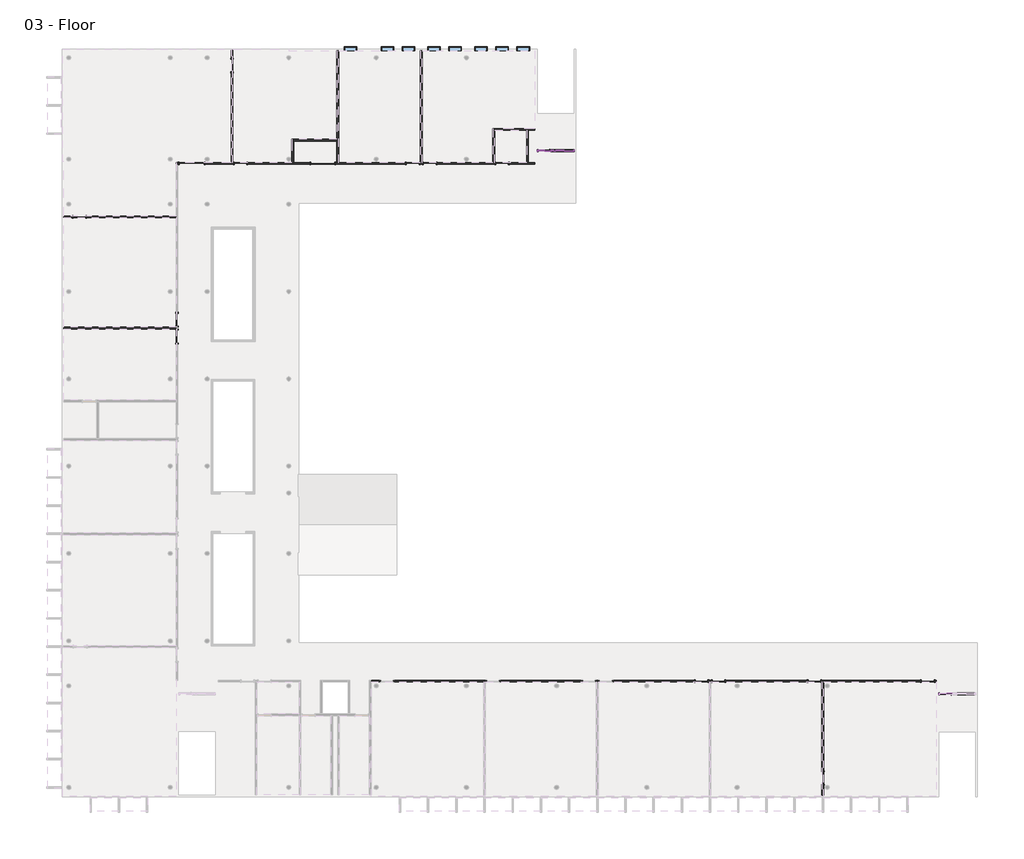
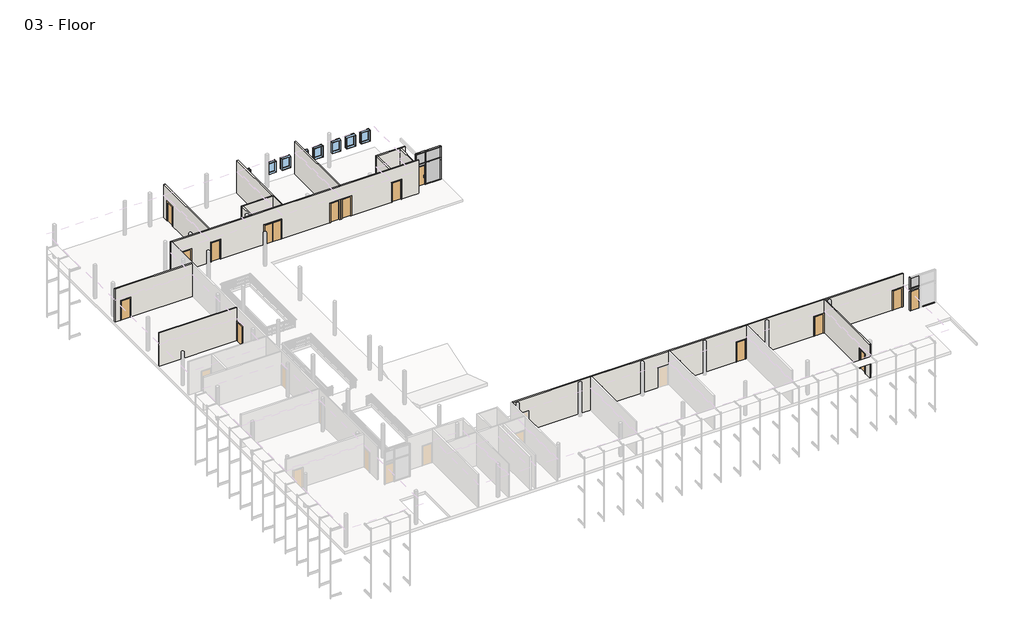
# One storey, part 2 of 4: 23 members, 17 doors, 13 walls, 8 windows, 6 plates.
"""IFC4 building model written with IfcOpenShell, lengths in millimetres."""

from ifc_helpers import new_model, si_unit, frame, origin, place, context, project, spatial, polyline, outline, extrude, faceted_brep, transform, mapped, element, save
from components import curtain_wall_sgl_glass_curtain_wall_sgl_glass_c2d4b377, curtain_wall_sgl_glass_curtain_wall_sgl_glass_ab2568d1, door_74fba8be, door_2ec079c3, door_a1797ceb, door_a3eb833a, member_2b49869a, member_75074519, member_6186cc23, member_5d67b9fc, member_a50b3cda, member_c327c56d, member_410c6227, member_73c23c35, member_bcb6a316, member_d3323a85, member_7bd2cd2c, member_6be37683, member_e7b2e991, system_panel_glazed_8dc8626f, system_panel_glazed_bb2f95a6, system_panel_glazed_2e5f6ce9, system_panel_glazed_639f3d85, system_panel_glazed_72fe8651, system_panel_glazed_1925881f, window_dfee3f32

model = new_model("IFC4")

# Units and contexts
model_context = context("Model", 3, world=origin())
ifc_project = project(units=[si_unit("LENGTHUNIT", "METRE", prefix="MILLI")], contexts=[model_context])

# Site, building, storey
site = spatial("IfcSite", under=ifc_project)
building = spatial("IfcBuilding", under=site)
storey = spatial("IfcBuildingStorey", under=building, Name="03 - Floor", Elevation=7315.2)

# Doors
placement = place(None, origin())
curtain_wall_sgl_glass_curtain_wall_sgl_glass_shape = curtain_wall_sgl_glass_curtain_wall_sgl_glass_c2d4b377(model_context)
element("IfcDoor", 1, ObjectType="Curtain Wall Sgl Glass : Curtain Wall Sgl Glass", at=placement, inside=storey, context=model_context, shape_type="MappedRepresentation", body=[
    mapped(curtain_wall_sgl_glass_curtain_wall_sgl_glass_shape, transform((34925.9207476, 46523.2, 7315.2), x_axis=(-1.0, 0.0, 0.0), y_axis=(0.0, -1.0, 0.0), z_axis=(0.0, 0.0, 1.0))),
])
curtain_wall_sgl_glass_curtain_wall_sgl_glass_2_shape = curtain_wall_sgl_glass_curtain_wall_sgl_glass_ab2568d1(model_context)
element("IfcDoor", 2, ObjectType="Curtain Wall Sgl Glass : Curtain Wall Sgl Glass", at=placement, inside=storey, context=model_context, shape_type="MappedRepresentation", body=[
    mapped(curtain_wall_sgl_glass_curtain_wall_sgl_glass_2_shape, transform((63869.2207476, 7356.4, 7315.2), x_axis=(-1.0, 0.0, 0.0), y_axis=(0.0, -1.0, 0.0), z_axis=(0.0, 0.0, 1.0))),
])
door_shape = door_74fba8be(model_context)
element("IfcDoor", 3, ObjectType="Double-Flush : 68\" x 84\"", at=placement, inside=storey, context=model_context, shape_type="MappedRepresentation", body=[
    mapped(door_shape, transform((18949.3207476, 45608.8, 7315.2), x_axis=(1.0, 0.0, 0.0), y_axis=(0.0, 1.0, 0.0), z_axis=(0.0, 0.0, 1.0))),
])
door_2_shape = door_2ec079c3(model_context)
element("IfcDoor", 4, ObjectType="Double-Flush : 72\" x 84\"", at=placement, inside=storey, context=model_context, shape_type="MappedRepresentation", body=[
    mapped(door_2_shape, transform((9487.8207476, 45608.8, 7315.2), x_axis=(1.0, 0.0, 0.0), y_axis=(0.0, 1.0, 0.0), z_axis=(0.0, 0.0, 1.0))),
])
door_3_shape = door_a1797ceb(model_context)
element("IfcDoor", 5, ObjectType="Single-Flush : 36\" x 84\"", at=placement, inside=storey, context=model_context, shape_type="MappedRepresentation", body=[
    mapped(door_3_shape, transform((25426.3207476, 45608.8, 7315.2), x_axis=(1.0, 0.0, 0.0), y_axis=(0.0, 1.0, 0.0), z_axis=(0.0, 0.0, 1.0))),
])
element("IfcDoor", 6, ObjectType="Single-Flush : 36\" x 84\"", at=placement, inside=storey, context=model_context, shape_type="MappedRepresentation", body=[
    mapped(door_3_shape, transform((1397.9207476, 41748.0, 7315.2), x_axis=(-1.0, 0.0, 0.0), y_axis=(0.0, -1.0, 0.0), z_axis=(0.0, 0.0, 1.0))),
])
element("IfcDoor", 7, ObjectType="Single-Flush : 36\" x 84\"", at=placement, inside=storey, context=model_context, shape_type="MappedRepresentation", body=[
    mapped(door_3_shape, transform((8421.0207476, 33112.0, 7315.2), x_axis=(0.0, 1.0, 0.0), y_axis=(-1.0, 0.0, 0.0), z_axis=(0.0, 0.0, 1.0))),
])
element("IfcDoor", 8, ObjectType="Single-Flush : 36\" x 84\"", at=placement, inside=storey, context=model_context, shape_type="MappedRepresentation", body=[
    mapped(door_3_shape, transform((47460.8207476, 8270.8, 7315.2), x_axis=(-1.0, 0.0, 0.0), y_axis=(0.0, -1.0, 0.0), z_axis=(0.0, 0.0, 1.0))),
])
element("IfcDoor", 9, ObjectType="Single-Flush : 36\" x 84\"", at=placement, inside=storey, context=model_context, shape_type="MappedRepresentation", body=[
    mapped(door_3_shape, transform((54979.2207476, 1273.1, 7315.2), x_axis=(0.0, -1.0, 0.0), y_axis=(1.0, 0.0, 0.0), z_axis=(0.0, 0.0, 1.0))),
])
door_4_shape = door_a3eb833a(model_context)
element("IfcDoor", 10, ObjectType="Single-Flush : 36\" x 84\"", at=placement, inside=storey, context=model_context, shape_type="MappedRepresentation", body=[
    mapped(door_4_shape, transform((31865.2207476, 45608.8, 7315.2), x_axis=(-1.0, 0.0, 0.0), y_axis=(0.0, -1.0, 0.0), z_axis=(0.0, 0.0, 1.0))),
])
element("IfcDoor", 11, ObjectType="Single-Flush : 36\" x 84\"", at=placement, inside=storey, context=model_context, shape_type="MappedRepresentation", body=[
    mapped(door_4_shape, transform((26645.5207476, 45608.8, 7315.2), x_axis=(-1.0, 0.0, 0.0), y_axis=(0.0, -1.0, 0.0), z_axis=(0.0, 0.0, 1.0))),
])
element("IfcDoor", 12, ObjectType="Single-Flush : 36\" x 84\"", at=placement, inside=storey, context=model_context, shape_type="MappedRepresentation", body=[
    mapped(door_4_shape, transform((13005.7207476, 45608.8, 7315.2), x_axis=(-1.0, 0.0, 0.0), y_axis=(0.0, -1.0, 0.0), z_axis=(0.0, 0.0, 1.0))),
])
element("IfcDoor", 13, ObjectType="Single-Flush : 36\" x 84\"", at=placement, inside=storey, context=model_context, shape_type="MappedRepresentation", body=[
    mapped(door_4_shape, transform((8421.0207476, 34331.2, 7315.2), x_axis=(0.0, -1.0, 0.0), y_axis=(1.0, 0.0, 0.0), z_axis=(0.0, 0.0, 1.0))),
])
element("IfcDoor", 14, ObjectType="Single-Flush : 36\" x 84\"", at=placement, inside=storey, context=model_context, shape_type="MappedRepresentation", body=[
    mapped(door_4_shape, transform((12396.1207476, 52657.3, 7315.2), x_axis=(0.0, 1.0, 0.0), y_axis=(-1.0, 0.0, 0.0), z_axis=(0.0, 0.0, 1.0))),
])
element("IfcDoor", 15, ObjectType="Single-Flush : 36\" x 84\"", at=placement, inside=storey, context=model_context, shape_type="MappedRepresentation", body=[
    mapped(door_4_shape, transform((46241.6207476, 8270.8, 7315.2), x_axis=(1.0, 0.0, 0.0), y_axis=(0.0, 1.0, 0.0), z_axis=(0.0, 0.0, 1.0))),
])
element("IfcDoor", 16, ObjectType="Single-Flush : 36\" x 84\"", at=placement, inside=storey, context=model_context, shape_type="MappedRepresentation", body=[
    mapped(door_4_shape, transform((54369.6207476, 8270.8, 7315.2), x_axis=(1.0, 0.0, 0.0), y_axis=(0.0, 1.0, 0.0), z_axis=(0.0, 0.0, 1.0))),
])
element("IfcDoor", 17, ObjectType="Single-Flush : 36\" x 84\"", at=placement, inside=storey, context=model_context, shape_type="MappedRepresentation", body=[
    mapped(door_4_shape, transform((62535.7207476, 8270.8, 7315.2), x_axis=(1.0, 0.0, 0.0), y_axis=(0.0, 1.0, 0.0), z_axis=(0.0, 0.0, 1.0))),
])

# Members
member_shape = member_2b49869a(model_context)
element("IfcMember", 18, ObjectType="Rectangular Mullion : 2.5\" x 5\" rectangular", at=placement, inside=storey, context=model_context, shape_type="MappedRepresentation", body=[
    mapped(member_shape, transform((35414.8707476, 46523.2, 9753.6), x_axis=(1.0, 0.0, 0.0), y_axis=(0.0, -1.0, 0.0), z_axis=(0.0, 0.0, -1.0))),
])
member_2_shape = member_75074519(model_context)
element("IfcMember", 19, ObjectType="Rectangular Mullion : 2.5\" x 5\" rectangular", at=placement, inside=storey, context=model_context, shape_type="MappedRepresentation", body=[
    mapped(member_2_shape, transform((34405.2207476, 46523.2, 10972.8), x_axis=(-1.0, 0.0, 0.0), y_axis=(0.0, -1.0, 0.0), z_axis=(0.0, 0.0, 1.0))),
])
element("IfcMember", 20, ObjectType="Rectangular Mullion : 2.5\" x 5\" rectangular", at=placement, inside=storey, context=model_context, shape_type="MappedRepresentation", body=[
    mapped(member_2_shape, transform((37046.8207476, 46523.2, 9753.6), x_axis=(1.0, 0.0, 0.0), y_axis=(0.0, -1.0, 0.0), z_axis=(0.0, 0.0, -1.0))),
])
element("IfcMember", 21, ObjectType="Rectangular Mullion : 2.5\" x 5\" rectangular", at=placement, inside=storey, context=model_context, shape_type="MappedRepresentation", body=[
    mapped(member_2_shape, transform((63348.5207476, 7356.4, 10972.8), x_axis=(-1.0, 0.0, 0.0), y_axis=(0.0, -1.0, 0.0), z_axis=(0.0, 0.0, 1.0))),
])
member_3_shape = member_6186cc23(model_context)
element("IfcMember", 22, ObjectType="Rectangular Mullion : 2.5\" x 5\" rectangular", at=placement, inside=storey, context=model_context, shape_type="MappedRepresentation", body=[
    mapped(member_3_shape, transform((35414.8707476, 46523.2, 7315.2), x_axis=(1.0, 0.0, 0.0), y_axis=(0.0, -1.0, 0.0), z_axis=(0.0, 0.0, -1.0))),
])
member_4_shape = member_5d67b9fc(model_context)
element("IfcMember", 23, ObjectType="Rectangular Mullion : 2.5\" x 5\" rectangular", at=placement, inside=storey, context=model_context, shape_type="MappedRepresentation", body=[
    mapped(member_4_shape, transform((35414.8707476, 46523.2, 9480.55), x_axis=(1.0, 0.0, 0.0), y_axis=(0.0, -1.0, 0.0), z_axis=(0.0, 0.0, -1.0))),
])
member_5_shape = member_a50b3cda(model_context)
element("IfcMember", 24, ObjectType="Rectangular Mullion : 2.5\" x 5\" rectangular", at=placement, inside=storey, context=model_context, shape_type="MappedRepresentation", body=[
    mapped(member_5_shape, transform((37046.8207476, 46523.2, 7315.2), x_axis=(1.0, 0.0, 0.0), y_axis=(0.0, -1.0, 0.0), z_axis=(0.0, 0.0, -1.0))),
])
member_6_shape = member_c327c56d(model_context)
element("IfcMember", 25, ObjectType="Rectangular Mullion : 2.5\" x 5\" rectangular", at=placement, inside=storey, context=model_context, shape_type="MappedRepresentation", body=[
    mapped(member_6_shape, transform((37046.8207476, 46523.2, 9480.55), x_axis=(1.0, 0.0, 0.0), y_axis=(0.0, -1.0, 0.0), z_axis=(0.0, 0.0, -1.0))),
])
member_7_shape = member_410c6227(model_context)
element("IfcMember", 26, ObjectType="Rectangular Mullion : 2.5\" x 5\" rectangular", at=placement, inside=storey, context=model_context, shape_type="MappedRepresentation", body=[
    mapped(member_7_shape, transform((35383.1207476, 46523.2, 9753.6), x_axis=(0.0, 0.0, 1.0), y_axis=(0.0, -1.0, 0.0), z_axis=(1.0, 0.0, 0.0))),
])
element("IfcMember", 27, ObjectType="Rectangular Mullion : 2.5\" x 5\" rectangular", at=placement, inside=storey, context=model_context, shape_type="MappedRepresentation", body=[
    mapped(member_7_shape, transform((35383.1207476, 46523.2, 9480.55), x_axis=(0.0, 0.0, 1.0), y_axis=(0.0, -1.0, 0.0), z_axis=(1.0, 0.0, 0.0))),
])
member_8_shape = member_73c23c35(model_context)
element("IfcMember", 28, ObjectType="Rectangular Mullion : 2.5\" x 5\" rectangular", at=placement, inside=storey, context=model_context, shape_type="MappedRepresentation", body=[
    mapped(member_8_shape, transform((35383.1207476, 46523.2, 10972.8), x_axis=(0.0, 0.0, 1.0), y_axis=(0.0, -1.0, 0.0), z_axis=(1.0, 0.0, 0.0))),
])
element("IfcMember", 29, ObjectType="Rectangular Mullion : 2.5\" x 5\" rectangular", at=placement, inside=storey, context=model_context, shape_type="MappedRepresentation", body=[
    mapped(member_6_shape, transform((34405.2207476, 46523.2, 9753.6), x_axis=(-1.0, 0.0, 0.0), y_axis=(0.0, -1.0, 0.0), z_axis=(0.0, 0.0, 1.0))),
])
element("IfcMember", 30, ObjectType="Rectangular Mullion : 2.5\" x 5\" rectangular", at=placement, inside=storey, context=model_context, shape_type="MappedRepresentation", body=[
    mapped(member_5_shape, transform((34405.2207476, 46523.2, 9480.55), x_axis=(-1.0, 0.0, 0.0), y_axis=(0.0, -1.0, 0.0), z_axis=(0.0, 0.0, 1.0))),
])
member_9_shape = member_bcb6a316(model_context)
element("IfcMember", 31, ObjectType="Rectangular Mullion : 2.5\" x 5\" rectangular", at=placement, inside=storey, context=model_context, shape_type="MappedRepresentation", body=[
    mapped(member_9_shape, transform((35726.0207476, 46523.2, 7315.2), x_axis=(0.0, 0.0, -1.0), y_axis=(0.0, -1.0, 0.0), z_axis=(-1.0, 0.0, 0.0))),
])
member_10_shape = member_d3323a85(model_context)
element("IfcMember", 32, ObjectType="Rectangular Mullion : 2.5\" x 5\" rectangular", at=placement, inside=storey, context=model_context, shape_type="MappedRepresentation", body=[
    mapped(member_10_shape, transform((35446.6207476, 46523.2, 7315.2), x_axis=(0.0, 0.0, -1.0), y_axis=(0.0, -1.0, 0.0), z_axis=(-1.0, 0.0, 0.0))),
])
element("IfcMember", 33, ObjectType="Rectangular Mullion : 2.5\" x 5\" rectangular", at=placement, inside=storey, context=model_context, shape_type="MappedRepresentation", body=[
    mapped(member_9_shape, transform((36983.3207476, 46523.2, 10972.8), x_axis=(0.0, 0.0, 1.0), y_axis=(0.0, -1.0, 0.0), z_axis=(1.0, 0.0, 0.0))),
])
element("IfcMember", 34, ObjectType="Rectangular Mullion : 2.5\" x 5\" rectangular", at=placement, inside=storey, context=model_context, shape_type="MappedRepresentation", body=[
    mapped(member_10_shape, transform((35726.0207476, 46523.2, 10972.8), x_axis=(0.0, 0.0, 1.0), y_axis=(0.0, -1.0, 0.0), z_axis=(1.0, 0.0, 0.0))),
])
member_11_shape = member_7bd2cd2c(model_context)
element("IfcMember", 35, ObjectType="Rectangular Mullion : 2.5\" x 5\" rectangular", at=placement, inside=storey, context=model_context, shape_type="MappedRepresentation", body=[
    mapped(member_11_shape, transform((36983.3207476, 46523.2, 9753.6), x_axis=(0.0, 0.0, 1.0), y_axis=(0.0, -1.0, 0.0), z_axis=(1.0, 0.0, 0.0))),
])
member_12_shape = member_6be37683(model_context)
element("IfcMember", 36, ObjectType="Rectangular Mullion : 2.5\" x 5\" rectangular", at=placement, inside=storey, context=model_context, shape_type="MappedRepresentation", body=[
    mapped(member_12_shape, transform((35726.0207476, 46523.2, 9753.6), x_axis=(0.0, 0.0, 1.0), y_axis=(0.0, -1.0, 0.0), z_axis=(1.0, 0.0, 0.0))),
])
element("IfcMember", 37, ObjectType="Rectangular Mullion : 2.5\" x 5\" rectangular", at=placement, inside=storey, context=model_context, shape_type="MappedRepresentation", body=[
    mapped(member_7_shape, transform((64326.4207476, 7356.4, 9753.6), x_axis=(0.0, 0.0, 1.0), y_axis=(0.0, -1.0, 0.0), z_axis=(1.0, 0.0, 0.0))),
])
element("IfcMember", 38, ObjectType="Rectangular Mullion : 2.5\" x 5\" rectangular", at=placement, inside=storey, context=model_context, shape_type="MappedRepresentation", body=[
    mapped(member_6_shape, transform((63348.5207476, 7356.4, 9753.6), x_axis=(-1.0, 0.0, 0.0), y_axis=(0.0, -1.0, 0.0), z_axis=(0.0, 0.0, 1.0))),
])
element("IfcMember", 39, ObjectType="Rectangular Mullion : 2.5\" x 5\" rectangular", at=placement, inside=storey, context=model_context, shape_type="MappedRepresentation", body=[
    mapped(member_5_shape, transform((63348.5207476, 7356.4, 9480.55), x_axis=(-1.0, 0.0, 0.0), y_axis=(0.0, -1.0, 0.0), z_axis=(0.0, 0.0, 1.0))),
])
member_13_shape = member_e7b2e991(model_context)
element("IfcMember", 40, ObjectType="Rectangular Mullion : 2.5\" x 5\" rectangular", at=placement, inside=storey, context=model_context, shape_type="MappedRepresentation", body=[
    mapped(member_13_shape, transform((64675.6707476, 7356.4, 7315.2), x_axis=(0.0, 0.0, -1.0), y_axis=(0.0, -1.0, 0.0), z_axis=(-1.0, 0.0, 0.0))),
])

# Plates
system_panel_glazed_shape = system_panel_glazed_8dc8626f(model_context)
element("IfcPlate", 41, ObjectType="System Panel : Glazed", at=placement, inside=storey, context=model_context, shape_type="MappedRepresentation", body=[
    mapped(system_panel_glazed_shape, transform((34925.9207476, 46523.2, 9512.3), x_axis=(1.0, 0.0, 0.0), y_axis=(0.0, 1.0, 0.0), z_axis=(0.0, 0.0, 1.0))),
])
system_panel_glazed_2_shape = system_panel_glazed_bb2f95a6(model_context)
element("IfcPlate", 42, ObjectType="System Panel : Glazed", at=placement, inside=storey, context=model_context, shape_type="MappedRepresentation", body=[
    mapped(system_panel_glazed_2_shape, transform((36214.9707476, 46523.2, 7378.7), x_axis=(1.0, 0.0, 0.0), y_axis=(0.0, 1.0, 0.0), z_axis=(0.0, 0.0, 1.0))),
])
system_panel_glazed_3_shape = system_panel_glazed_2e5f6ce9(model_context)
element("IfcPlate", 43, ObjectType="System Panel : Glazed", at=placement, inside=storey, context=model_context, shape_type="MappedRepresentation", body=[
    mapped(system_panel_glazed_3_shape, transform((34925.9207476, 46523.2, 9785.35), x_axis=(1.0, 0.0, 0.0), y_axis=(0.0, 1.0, 0.0), z_axis=(0.0, 0.0, 1.0))),
])
system_panel_glazed_4_shape = system_panel_glazed_639f3d85(model_context)
element("IfcPlate", 44, ObjectType="System Panel : Glazed", at=placement, inside=storey, context=model_context, shape_type="MappedRepresentation", body=[
    mapped(system_panel_glazed_4_shape, transform((36214.9707476, 46523.2, 9785.35), x_axis=(1.0, 0.0, 0.0), y_axis=(0.0, 1.0, 0.0), z_axis=(0.0, 0.0, 1.0))),
])
system_panel_glazed_5_shape = system_panel_glazed_72fe8651(model_context)
element("IfcPlate", 45, ObjectType="System Panel : Glazed", at=placement, inside=storey, context=model_context, shape_type="MappedRepresentation", body=[
    mapped(system_panel_glazed_5_shape, transform((63869.2207476, 7356.4, 9512.3), x_axis=(1.0, 0.0, 0.0), y_axis=(0.0, 1.0, 0.0), z_axis=(0.0, 0.0, 1.0))),
])
system_panel_glazed_6_shape = system_panel_glazed_1925881f(model_context)
element("IfcPlate", 46, ObjectType="System Panel : Glazed", at=placement, inside=storey, context=model_context, shape_type="MappedRepresentation", body=[
    mapped(system_panel_glazed_6_shape, transform((63869.2207476, 7356.4, 9785.35), x_axis=(1.0, 0.0, 0.0), y_axis=(0.0, 1.0, 0.0), z_axis=(0.0, 0.0, 1.0))),
])

# Walls
element("IfcWall", 47, ObjectType="Generic - 5\"", at=placement, inside=storey, context=model_context, shape_type="Brep", body=[
    faceted_brep([(8357.5207476, 45672.3, 7315.2), (8357.5207476, 45672.3, 10972.8), (12332.6207476, 45672.3, 10972.8), (12459.6207476, 45672.3, 10972.8), (16714.1207476, 45672.3, 10972.8), (16841.1207476, 45672.3, 10972.8), (19952.6207476, 45672.3, 10972.8), (20079.6207476, 45672.3, 10972.8), (25972.4207476, 45672.3, 10972.8), (26099.4207476, 45672.3, 10972.8), (31192.1207476, 45672.3, 10972.8), (31319.1207476, 45672.3, 10972.8), (33630.5207476, 45672.3, 10972.8), (33757.5207476, 45672.3, 10972.8), (34202.0207476, 45672.3, 10972.8), (34202.0207476, 45672.3, 7315.2), (33757.5207476, 45672.3, 7315.2), (33630.5207476, 45672.3, 7315.2), (32322.4207476, 45672.3, 7315.2), (32322.4207476, 45672.3, 9448.8), (31408.0207476, 45672.3, 9448.8), (31408.0207476, 45672.3, 7315.2), (31319.1207476, 45672.3, 7315.2), (31192.1207476, 45672.3, 7315.2), (27102.7207476, 45672.3, 7315.2), (27102.7207476, 45672.3, 9448.8), (26188.3207476, 45672.3, 9448.8), (26188.3207476, 45672.3, 7315.2), (26099.4207476, 45672.3, 7315.2), (25972.4207476, 45672.3, 7315.2), (25883.5207476, 45672.3, 7315.2), (25883.5207476, 45672.3, 9448.8), (24969.1207476, 45672.3, 9448.8), (24969.1207476, 45672.3, 7315.2), (20079.6207476, 45672.3, 7315.2), (19952.6207476, 45672.3, 7315.2), (19812.9207476, 45672.3, 7315.2), (19812.9207476, 45672.3, 9448.8), (18085.7207476, 45672.3, 9448.8), (18085.7207476, 45672.3, 7315.2), (16841.1207476, 45672.3, 7315.2), (16714.1207476, 45672.3, 7315.2), (13462.9207476, 45672.3, 7315.2), (13462.9207476, 45672.3, 9448.8), (12548.5207476, 45672.3, 9448.8), (12548.5207476, 45672.3, 7315.2), (12459.6207476, 45672.3, 7315.2), (12332.6207476, 45672.3, 7315.2), (10402.2207476, 45672.3, 7315.2), (10402.2207476, 45672.3, 9448.8), (8573.4207476, 45672.3, 9448.8), (8573.4207476, 45672.3, 7315.2), (34202.0207476, 45545.3, 7315.2), (34202.0207476, 45545.3, 10972.8), (8484.5207476, 45545.3, 10972.8), (8357.5207476, 45545.3, 10972.8), (8357.5207476, 45545.3, 7315.2), (8484.5207476, 45545.3, 7315.2), (8573.4207476, 45545.3, 7315.2), (8573.4207476, 45545.3, 9448.8), (10402.2207476, 45545.3, 9448.8), (10402.2207476, 45545.3, 7315.2), (12548.5207476, 45545.3, 7315.2), (12548.5207476, 45545.3, 9448.8), (13462.9207476, 45545.3, 9448.8), (13462.9207476, 45545.3, 7315.2), (18085.7207476, 45545.3, 7315.2), (18085.7207476, 45545.3, 9448.8), (19812.9207476, 45545.3, 9448.8), (19812.9207476, 45545.3, 7315.2), (24969.1207476, 45545.3, 7315.2), (24969.1207476, 45545.3, 9448.8), (25883.5207476, 45545.3, 9448.8), (25883.5207476, 45545.3, 7315.2), (26188.3207476, 45545.3, 7315.2), (26188.3207476, 45545.3, 9448.8), (27102.7207476, 45545.3, 9448.8), (27102.7207476, 45545.3, 7315.2), (31408.0207476, 45545.3, 7315.2), (31408.0207476, 45545.3, 9448.8), (32322.4207476, 45545.3, 9448.8), (32322.4207476, 45545.3, 7315.2)], [[[0, 1, 2, 3, 4, 5, 6, 7, 8, 9, 10, 11, 12, 13, 14, 15, 16, 17, 18, 19, 20, 21, 22, 23, 24, 25, 26, 27, 28, 29, 30, 31, 32, 33, 34, 35, 36, 37, 38, 39, 40, 41, 42, 43, 44, 45, 46, 47, 48, 49, 50, 51]], [[52, 53, 54, 55, 56, 57, 58, 59, 60, 61, 62, 63, 64, 65, 66, 67, 68, 69, 70, 71, 72, 73, 74, 75, 76, 77, 78, 79, 80, 81]], [[15, 52, 81, 18, 17, 16]], [[56, 0, 51, 58, 57]], [[21, 78, 77, 24, 23, 22]], [[27, 74, 73, 30, 29, 28]], [[33, 70, 69, 36, 35, 34]], [[45, 62, 61, 48, 47, 46]], [[65, 42, 41, 40, 39, 66]], [[14, 13, 12, 11, 10, 9, 8, 7, 6, 5, 4, 3, 2, 1, 55, 54, 53]], [[1, 0, 56, 55]], [[15, 14, 53, 52]], [[79, 78, 21, 20]], [[80, 79, 20, 19]], [[81, 80, 19, 18]], [[75, 74, 27, 26]], [[76, 75, 26, 25]], [[77, 76, 25, 24]], [[31, 30, 73, 72]], [[32, 31, 72, 71]], [[33, 32, 71, 70]], [[63, 62, 45, 44]], [[64, 63, 44, 43]], [[65, 64, 43, 42]], [[68, 37, 36, 69]], [[37, 68, 67, 38]], [[38, 67, 66, 39]], [[60, 49, 48, 61]], [[49, 60, 59, 50]], [[50, 59, 58, 51]]]),
])
element("IfcWall", 48, ObjectType="Generic - 5\"", at=placement, inside=storey, context=model_context, shape_type="Brep", body=[
    faceted_brep([(62992.9207476, 8207.3, 9448.8), (62992.9207476, 8207.3, 7315.2), (63145.3207476, 8207.3, 7315.2), (63145.3207476, 8207.3, 10972.8), (55042.7207476, 8207.3, 10972.8), (54915.7207476, 8207.3, 10972.8), (46914.7207476, 8207.3, 10972.8), (46787.7207476, 8207.3, 10972.8), (38786.7207476, 8207.3, 10972.8), (38659.7207476, 8207.3, 10972.8), (30658.7207476, 8207.3, 10972.8), (30531.7207476, 8207.3, 10972.8), (22429.1207476, 8207.3, 10972.8), (22429.1207476, 8207.3, 7315.2), (23114.9207476, 8207.3, 7315.2), (23114.9207476, 8207.3, 9448.8), (24029.3207476, 8207.3, 9448.8), (24029.3207476, 8207.3, 7315.2), (30531.7207476, 8207.3, 7315.2), (30658.7207476, 8207.3, 7315.2), (30747.6207476, 8207.3, 7315.2), (30747.6207476, 8207.3, 9448.8), (31662.0207476, 8207.3, 9448.8), (31662.0207476, 8207.3, 7315.2), (37656.4207476, 8207.3, 7315.2), (37656.4207476, 8207.3, 9448.8), (38570.8207476, 8207.3, 9448.8), (38570.8207476, 8207.3, 7315.2), (38659.7207476, 8207.3, 7315.2), (38786.7207476, 8207.3, 7315.2), (38875.6207476, 8207.3, 7315.2), (38875.6207476, 8207.3, 9448.8), (39790.0207476, 8207.3, 9448.8), (39790.0207476, 8207.3, 7315.2), (45784.4207476, 8207.3, 7315.2), (45784.4207476, 8207.3, 9448.8), (46698.8207476, 8207.3, 9448.8), (46698.8207476, 8207.3, 7315.2), (46787.7207476, 8207.3, 7315.2), (46914.7207476, 8207.3, 7315.2), (47003.6207476, 8207.3, 7315.2), (47003.6207476, 8207.3, 9448.8), (47918.0207476, 8207.3, 9448.8), (47918.0207476, 8207.3, 7315.2), (53912.4207476, 8207.3, 7315.2), (53912.4207476, 8207.3, 9448.8), (54826.8207476, 8207.3, 9448.8), (54826.8207476, 8207.3, 7315.2), (54915.7207476, 8207.3, 7315.2), (55042.7207476, 8207.3, 7315.2), (62078.5207476, 8207.3, 7315.2), (62078.5207476, 8207.3, 9448.8), (63145.3207476, 8334.3, 7315.2), (62992.9207476, 8334.3, 7315.2), (62992.9207476, 8334.3, 9448.8), (62078.5207476, 8334.3, 9448.8), (62078.5207476, 8334.3, 7315.2), (54826.8207476, 8334.3, 7315.2), (54826.8207476, 8334.3, 9448.8), (53912.4207476, 8334.3, 9448.8), (53912.4207476, 8334.3, 7315.2), (47918.0207476, 8334.3, 7315.2), (47918.0207476, 8334.3, 9448.8), (47003.6207476, 8334.3, 9448.8), (47003.6207476, 8334.3, 7315.2), (46698.8207476, 8334.3, 7315.2), (46698.8207476, 8334.3, 9448.8), (45784.4207476, 8334.3, 9448.8), (45784.4207476, 8334.3, 7315.2), (39790.0207476, 8334.3, 7315.2), (39790.0207476, 8334.3, 9448.8), (38875.6207476, 8334.3, 9448.8), (38875.6207476, 8334.3, 7315.2), (38570.8207476, 8334.3, 7315.2), (38570.8207476, 8334.3, 9448.8), (37656.4207476, 8334.3, 9448.8), (37656.4207476, 8334.3, 7315.2), (31662.0207476, 8334.3, 7315.2), (31662.0207476, 8334.3, 9448.8), (30747.6207476, 8334.3, 9448.8), (30747.6207476, 8334.3, 7315.2), (24029.3207476, 8334.3, 7315.2), (24029.3207476, 8334.3, 9448.8), (23114.9207476, 8334.3, 9448.8), (23114.9207476, 8334.3, 7315.2), (22429.1207476, 8334.3, 7315.2), (22429.1207476, 8334.3, 10972.8), (63145.3207476, 8334.3, 10972.8)], [[[0, 1, 2, 3, 4, 5, 6, 7, 8, 9, 10, 11, 12, 13, 14, 15, 16, 17, 18, 19, 20, 21, 22, 23, 24, 25, 26, 27, 28, 29, 30, 31, 32, 33, 34, 35, 36, 37, 38, 39, 40, 41, 42, 43, 44, 45, 46, 47, 48, 49, 50, 51]], [[52, 53, 54, 55, 56, 57, 58, 59, 60, 61, 62, 63, 64, 65, 66, 67, 68, 69, 70, 71, 72, 73, 74, 75, 76, 77, 78, 79, 80, 81, 82, 83, 84, 85, 86, 87]], [[85, 84, 14, 13]], [[73, 72, 30, 29, 28, 27]], [[81, 80, 20, 19, 18, 17]], [[77, 76, 24, 23]], [[65, 64, 40, 39, 38, 37]], [[34, 33, 69, 68]], [[2, 1, 53, 52]], [[44, 43, 61, 60]], [[50, 49, 48, 47, 57, 56]], [[12, 11, 10, 9, 8, 7, 6, 5, 4, 3, 87, 86]], [[3, 2, 52, 87]], [[13, 12, 86, 85]], [[15, 14, 84, 83]], [[16, 15, 83, 82]], [[17, 16, 82, 81]], [[74, 73, 27, 26]], [[75, 74, 26, 25]], [[76, 75, 25, 24]], [[21, 20, 80, 79]], [[22, 21, 79, 78]], [[23, 22, 78, 77]], [[31, 30, 72, 71]], [[32, 31, 71, 70]], [[33, 32, 70, 69]], [[66, 65, 37, 36]], [[67, 66, 36, 35]], [[68, 67, 35, 34]], [[41, 40, 64, 63]], [[42, 41, 63, 62]], [[43, 42, 62, 61]], [[58, 57, 47, 46]], [[59, 58, 46, 45]], [[60, 59, 45, 44]], [[54, 53, 1, 0]], [[55, 54, 0, 51]], [[56, 55, 51, 50]]]),
])
element("IfcWall", 49, ObjectType="Generic - 5\"", at=placement, inside=storey, context=model_context, shape_type="SweptSolid", body=[
    extrude(outline(polyline([(7315.2, 280.3207476), (7315.2, 940.7207476), (9448.8, 940.7207476), (9448.8, 1855.1207476), (7315.2, 1855.1207476), (7315.2, 8357.5207476), (10972.8, 8357.5207476), (10972.8, 280.3207476), (7315.2, 280.3207476)])), frame((0.0, 41684.5, 0.0), z_axis=(0.0, 1.0, 0.0), x_axis=(0.0, 0.0, 1.0)), (0.0, 0.0, 1.0), 127.0),
])
element("IfcWall", 50, ObjectType="Generic - 5\"", at=placement, inside=storey, context=model_context, shape_type="SweptSolid", body=[
    extrude(outline(polyline([(8357.5207476, 33658.1), (280.3207476, 33658.1), (280.3207476, 33785.1), (8357.5207476, 33785.1), (8357.5207476, 33658.1)])), frame((0.0, 0.0, 7315.2), z_axis=(0.0, 0.0, 1.0), x_axis=(1.0, 0.0, 0.0)), (0.0, 0.0, 1.0), 3657.6),
])
element("IfcWall", 51, ObjectType="Generic - 5\"", at=placement, inside=storey, context=model_context, shape_type="SweptSolid", body=[
    extrude(outline(polyline([(25972.4207476, 45672.3), (25972.4207476, 53724.1), (26099.4207476, 53724.1), (26099.4207476, 45672.3), (25972.4207476, 45672.3)])), frame((0.0, 0.0, 7315.2), z_axis=(0.0, 0.0, 1.0), x_axis=(1.0, 0.0, 0.0)), (0.0, 0.0, 1.0), 3657.6),
])
element("IfcWall", 52, ObjectType="Generic - 5\"", at=placement, inside=storey, context=model_context, shape_type="Brep", body=[
    faceted_brep([(19952.6207476, 53724.1, 7315.2), (19952.6207476, 47344.7000002, 7315.2), (19952.6207476, 47217.7000002, 7315.2), (19952.6207476, 45672.3, 7315.2), (19952.6207476, 45672.3, 10972.8), (19952.6207476, 47217.7000002, 10972.8), (19952.6207476, 47344.7000002, 10972.8), (19952.6207476, 53724.1, 10972.8), (20079.6207476, 53724.1, 7315.2), (20079.6207476, 53724.1, 10972.8), (20079.6207476, 45672.3, 10972.8), (20079.6207476, 45672.3, 7315.2)], [[[0, 1, 2, 3, 4, 5, 6, 7]], [[8, 9, 10, 11]], [[3, 2, 1, 0, 8, 11]], [[0, 7, 9, 8]], [[4, 3, 11, 10]], [[7, 6, 5, 4, 10, 9]]]),
])
element("IfcWall", 53, ObjectType="Generic - 5\"", at=placement, inside=storey, context=model_context, shape_type="SweptSolid", body=[
    extrude(outline(polyline([(53762.2, 7315.2), (53114.5, 7315.2), (53114.5, 9448.8), (52200.1, 9448.8), (52200.1, 7315.2), (45672.3, 7315.2), (45672.3, 10972.8), (53724.1, 10972.8), (53762.2, 10972.8), (53762.2, 7315.2)])), frame((12332.6207476, 0.0, 0.0), z_axis=(1.0, 0.0, 0.0), x_axis=(0.0, 1.0, 0.0)), (0.0, 0.0, 1.0), 127.0),
])
element("IfcWall", 54, ObjectType="Generic - 5\"", at=placement, inside=storey, context=model_context, shape_type="SweptSolid", body=[
    extrude(outline(polyline([(815.9, 9448.8), (815.9, 7315.2), (15.8, 7315.2), (15.8, 10972.8), (53.9, 10972.8), (8207.3, 10972.8), (8207.3, 7315.2), (1730.3, 7315.2), (1730.3, 9448.8), (815.9, 9448.8)])), frame((54915.7207476, 0.0, 0.0), z_axis=(1.0, 0.0, 0.0), x_axis=(0.0, 1.0, 0.0)), (0.0, 0.0, 1.0), 127.0),
])
element("IfcWall", 55, ObjectType="Generic - 5\"", at=placement, inside=storey, context=model_context, shape_type="Brep", body=[
    faceted_brep([(19952.6207476, 47344.7000002, 7315.2), (16714.1207476, 47344.7000002, 7315.2), (16714.1207476, 47344.7000002, 10972.8), (19952.6207476, 47344.7000002, 10972.8), (19952.6207476, 47217.7000002, 7315.2), (19952.6207476, 47217.7000002, 10972.8), (16841.1207476, 47217.7000002, 10972.8), (16714.1207476, 47217.7000002, 10972.8), (16714.1207476, 47217.7000002, 7315.2), (16841.1207476, 47217.7000002, 7315.2)], [[[0, 1, 2, 3]], [[4, 5, 6, 7, 8, 9]], [[1, 0, 4, 9, 8]], [[3, 2, 7, 6, 5]], [[2, 1, 8, 7]], [[0, 3, 5, 4]]]),
])
element("IfcWall", 56, ObjectType="Generic - 5\"", at=placement, inside=storey, context=model_context, shape_type="SweptSolid", body=[
    extrude(outline(polyline([(16714.1207476, 45672.3), (16714.1207476, 47217.7000002), (16841.1207476, 47217.7000002), (16841.1207476, 45672.3), (16714.1207476, 45672.3)])), frame((0.0, 0.0, 7315.2), z_axis=(0.0, 0.0, 1.0), x_axis=(1.0, 0.0, 0.0)), (0.0, 0.0, 1.0), 3657.6),
])
element("IfcWall", 57, ObjectType="Generic - 5\"", at=placement, inside=storey, context=model_context, shape_type="Brep", body=[
    faceted_brep([(34202.0207476, 48110.7, 7315.2), (31192.1207476, 48110.7, 7315.2), (31192.1207476, 48110.7, 10972.8), (34202.0207476, 48110.7, 10972.8), (34202.0207476, 47983.7, 7315.2), (34202.0207476, 47983.7, 10972.8), (33757.5207476, 47983.7, 10972.8), (33630.5207476, 47983.7, 10972.8), (31319.1207476, 47983.7, 10972.8), (31192.1207476, 47983.7, 10972.8), (31192.1207476, 47983.7, 7315.2), (31319.1207476, 47983.7, 7315.2), (33630.5207476, 47983.7, 7315.2), (33757.5207476, 47983.7, 7315.2)], [[[0, 1, 2, 3]], [[4, 5, 6, 7, 8, 9, 10, 11, 12, 13]], [[1, 0, 4, 13, 12, 11, 10]], [[3, 2, 9, 8, 7, 6, 5]], [[2, 1, 10, 9]], [[0, 3, 5, 4]]]),
])
element("IfcWall", 58, ObjectType="Generic - 5\"", at=placement, inside=storey, context=model_context, shape_type="SweptSolid", body=[
    extrude(outline(polyline([(31192.1207476, 45672.3), (31192.1207476, 47983.7), (31319.1207476, 47983.7), (31319.1207476, 45672.3), (31192.1207476, 45672.3)])), frame((0.0, 0.0, 7315.2), z_axis=(0.0, 0.0, 1.0), x_axis=(1.0, 0.0, 0.0)), (0.0, 0.0, 1.0), 3657.6),
])
element("IfcWall", 59, ObjectType="Generic - 5\"", at=placement, inside=storey, context=model_context, shape_type="SweptSolid", body=[
    extrude(outline(polyline([(33630.5207476, 45672.3), (33630.5207476, 47983.7), (33757.5207476, 47983.7), (33757.5207476, 45672.3), (33630.5207476, 45672.3)])), frame((0.0, 0.0, 7315.2), z_axis=(0.0, 0.0, 1.0), x_axis=(1.0, 0.0, 0.0)), (0.0, 0.0, 1.0), 3657.6),
])

# Windows
window_shape = window_dfee3f32(model_context)
element("IfcWindow", 60, ObjectType="Fixed : 36\" x 48\"", at=placement, inside=storey, context=model_context, shape_type="MappedRepresentation", body=[
    mapped(window_shape, transform((20968.6207476, 53878.0875, 7315.2), x_axis=(1.0, 0.0, 0.0), y_axis=(0.0, 1.0, 0.0), z_axis=(0.0, 0.0, 1.0))),
])
element("IfcWindow", 61, ObjectType="Fixed : 36\" x 48\"", at=placement, inside=storey, context=model_context, shape_type="MappedRepresentation", body=[
    mapped(window_shape, transform((25159.6207476, 53878.0875, 7315.2), x_axis=(1.0, 0.0, 0.0), y_axis=(0.0, 1.0, 0.0), z_axis=(0.0, 0.0, 1.0))),
])
element("IfcWindow", 62, ObjectType="Fixed : 36\" x 48\"", at=placement, inside=storey, context=model_context, shape_type="MappedRepresentation", body=[
    mapped(window_shape, transform((23635.6207476, 53878.0875, 7315.2), x_axis=(1.0, 0.0, 0.0), y_axis=(0.0, 1.0, 0.0), z_axis=(0.0, 0.0, 1.0))),
])
element("IfcWindow", 63, ObjectType="Fixed : 36\" x 48\"", at=placement, inside=storey, context=model_context, shape_type="MappedRepresentation", body=[
    mapped(window_shape, transform((26988.4207476, 53878.0875, 7315.2), x_axis=(1.0, 0.0, 0.0), y_axis=(0.0, 1.0, 0.0), z_axis=(0.0, 0.0, 1.0))),
])
element("IfcWindow", 64, ObjectType="Fixed : 36\" x 48\"", at=placement, inside=storey, context=model_context, shape_type="MappedRepresentation", body=[
    mapped(window_shape, transform((28512.4207476, 53878.0875, 7315.2), x_axis=(1.0, 0.0, 0.0), y_axis=(0.0, 1.0, 0.0), z_axis=(0.0, 0.0, 1.0))),
])
element("IfcWindow", 65, ObjectType="Fixed : 36\" x 48\"", at=placement, inside=storey, context=model_context, shape_type="MappedRepresentation", body=[
    mapped(window_shape, transform((33427.3207476, 53878.0875, 7315.2), x_axis=(1.0, 0.0, 0.0), y_axis=(0.0, 1.0, 0.0), z_axis=(0.0, 0.0, 1.0))),
])
element("IfcWindow", 66, ObjectType="Fixed : 36\" x 48\"", at=placement, inside=storey, context=model_context, shape_type="MappedRepresentation", body=[
    mapped(window_shape, transform((31903.3207476, 53878.0875, 7315.2), x_axis=(1.0, 0.0, 0.0), y_axis=(0.0, 1.0, 0.0), z_axis=(0.0, 0.0, 1.0))),
])
element("IfcWindow", 67, ObjectType="Fixed : 36\" x 48\"", at=placement, inside=storey, context=model_context, shape_type="MappedRepresentation", body=[
    mapped(window_shape, transform((30379.3207476, 53878.0875, 7315.2), x_axis=(1.0, 0.0, 0.0), y_axis=(0.0, 1.0, 0.0), z_axis=(0.0, 0.0, 1.0))),
])

save(model, "model.ifc")
